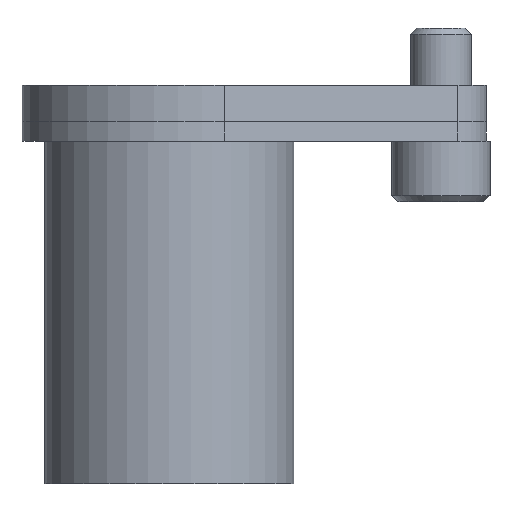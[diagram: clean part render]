
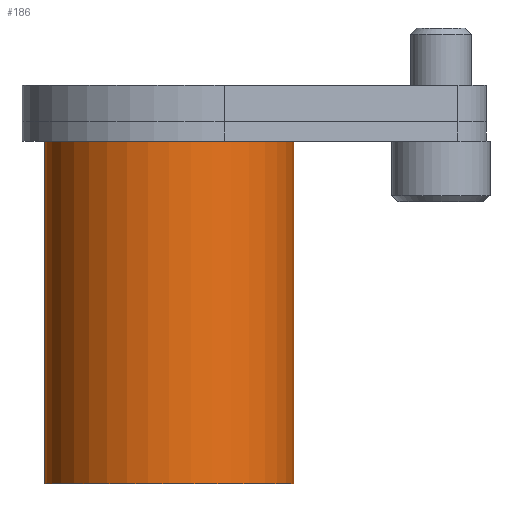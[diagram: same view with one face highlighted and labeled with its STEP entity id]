
A CAD part, front view. The second image highlights one B-rep face of the part: STEP entity #186.
In plain terms, the highlighted cylindrical face has radius 16.5 mm (diameter 33 mm), a partial arc.
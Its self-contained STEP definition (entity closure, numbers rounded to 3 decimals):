
#186=ADVANCED_FACE('',(#251),#221,.T.);
#221=CYLINDRICAL_SURFACE('',#1031,16.5);
#251=FACE_OUTER_BOUND('',#309,.T.);
#309=EDGE_LOOP('',(#605,#606,#607,#608));
#365=LINE('',#1512,#425);
#366=LINE('',#1516,#426);
#425=VECTOR('',#1251,1.);
#426=VECTOR('',#1254,1.);
#605=ORIENTED_EDGE('',*,*,#851,.T.);
#606=ORIENTED_EDGE('',*,*,#852,.F.);
#607=ORIENTED_EDGE('',*,*,#853,.F.);
#608=ORIENTED_EDGE('',*,*,#848,.T.);
#745=VERTEX_POINT('',#1505);
#746=VERTEX_POINT('',#1507);
#747=VERTEX_POINT('',#1513);
#748=VERTEX_POINT('',#1515);
#848=EDGE_CURVE('',#746,#745,#937,.T.);
#851=EDGE_CURVE('',#745,#747,#365,.T.);
#852=EDGE_CURVE('',#748,#747,#939,.T.);
#853=EDGE_CURVE('',#746,#748,#366,.T.);
#937=CIRCLE('',#1026,16.5);
#939=CIRCLE('',#1030,16.5);
#1026=AXIS2_PLACEMENT_3D('',#1506,#1242,#1243);
#1030=AXIS2_PLACEMENT_3D('',#1514,#1252,#1253);
#1031=AXIS2_PLACEMENT_3D('',#1517,#1255,#1256);
#1242=DIRECTION('',(0.,0.,-1.));
#1243=DIRECTION('',(0.,1.,0.));
#1251=DIRECTION('',(0.,0.,-1.));
#1252=DIRECTION('',(0.,0.,-1.));
#1253=DIRECTION('',(0.,1.,0.));
#1254=DIRECTION('',(0.,0.,-1.));
#1255=DIRECTION('',(0.,0.,-1.));
#1256=DIRECTION('',(0.,-1.,0.));
#1505=CARTESIAN_POINT('',(-16.5,0.,-7.4));
#1506=CARTESIAN_POINT('',(0.,0.,-7.4));
#1507=CARTESIAN_POINT('',(16.5,0.,-7.4));
#1512=CARTESIAN_POINT('',(-16.5,0.,-7.4));
#1513=CARTESIAN_POINT('',(-16.5,0.,-52.8));
#1514=CARTESIAN_POINT('',(0.,0.,-52.8));
#1515=CARTESIAN_POINT('',(16.5,0.,-52.8));
#1516=CARTESIAN_POINT('',(16.5,0.,-7.4));
#1517=CARTESIAN_POINT('',(0.,0.,-7.4));
